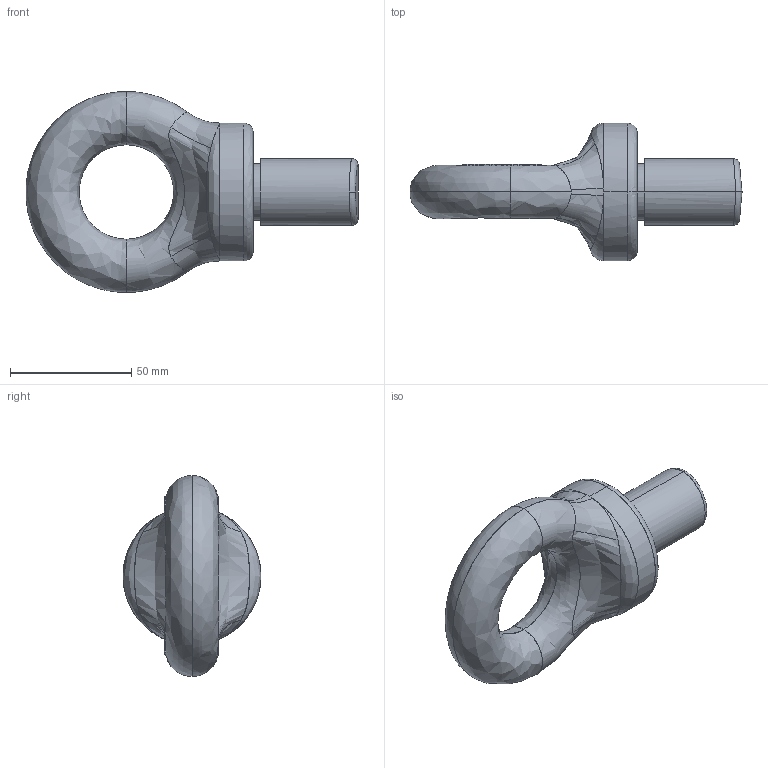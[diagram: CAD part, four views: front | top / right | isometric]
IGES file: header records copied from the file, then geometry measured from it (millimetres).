
Start section: SolidWorks IGES FILE using analytic representation for surfaces
Global section: file name: C:\Documents and Settings\Townley Workstation\Desktop\tooling\Townley products\Eye bolts\EBB1000\Model\Finished Part Drawings\EBB1000.IGS; native system: SolidWorks 2004 by SolidWorks Corporation; preprocessor: Version 5.3; author: Townley Workstation; date: 091119.135613; units: millimetre
Bounding box: 137.14 x 57 x 83 mm (x, y, z)
Surface area: 22485.9 mm2 (no closed solid volume)
Topology: 0 solids, 0 shells, 233 faces, 3072 edges, 3072 vertices
Faces by surface type: bspline 225, revolution 8
